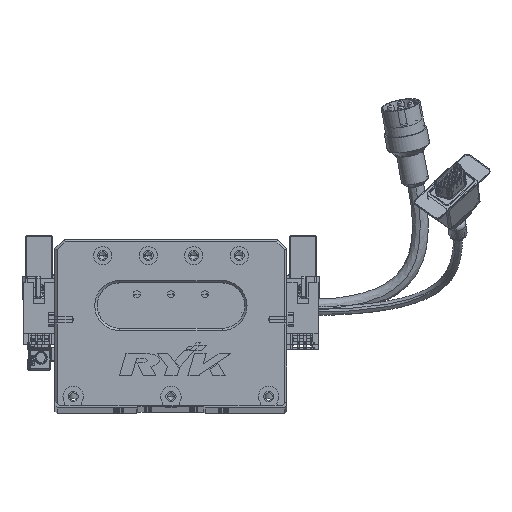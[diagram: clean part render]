
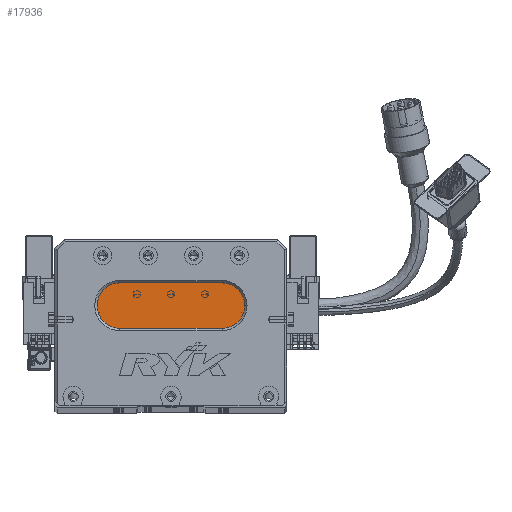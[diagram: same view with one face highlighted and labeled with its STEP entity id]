
A CAD part, top view. The second image highlights one B-rep face of the part: STEP entity #17936.
In plain terms, the highlighted planar face has unit normal (0, 0, 1) as drawn and (0, 0, -1) by its records, which use the part's own axes.
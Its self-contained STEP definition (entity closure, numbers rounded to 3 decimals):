
#435 = DIRECTION ( 'NONE',  ( -1., 0., 0. ) ) ;
#770 = DIRECTION ( 'NONE',  ( 1., 0., 0. ) ) ;
#1495 = ORIENTED_EDGE ( 'NONE', *, *, #12369, .T. ) ;
#1555 = VECTOR ( 'NONE', #770, 1000. ) ;
#2066 = PLANE ( 'NONE',  #9559 ) ;
#3322 = CARTESIAN_POINT ( 'NONE',  ( 28.5, 34., 13. ) ) ;
#6414 = CARTESIAN_POINT ( 'NONE',  ( 73.5, 44., 13. ) ) ;
#8319 = CIRCLE ( 'NONE', #62216, 10. ) ;
#9559 = AXIS2_PLACEMENT_3D ( 'NONE', #30125, #18705, #70170 ) ;
#12256 = VECTOR ( 'NONE', #44688, 1000. ) ;
#12369 = EDGE_CURVE ( 'NONE', #48958, #53826, #13075, .T. ) ;
#12390 = AXIS2_PLACEMENT_3D ( 'NONE', #43992, #38246, #14902 ) ;
#13075 = LINE ( 'NONE', #34771, #1555 ) ;
#14902 = DIRECTION ( 'NONE',  ( -1., 0., 0. ) ) ;
#15443 = EDGE_CURVE ( 'NONE', #37744, #67535, #66542, .T. ) ;
#17936 = ADVANCED_FACE ( 'NONE', ( #54615 ), #2066, .T. ) ;
#18705 = DIRECTION ( 'NONE',  ( 0., 0., -1. ) ) ;
#23263 = DIRECTION ( 'NONE',  ( 0., 0., -1. ) ) ;
#25768 = EDGE_LOOP ( 'NONE', ( #35173, #33139, #44646, #61096, #1495 ) ) ;
#25930 = CARTESIAN_POINT ( 'NONE',  ( 28.5, 44., 13. ) ) ;
#27046 = EDGE_CURVE ( 'NONE', #37341, #48958, #62189, .T. ) ;
#30125 = CARTESIAN_POINT ( 'NONE',  ( 73.5, 44., 13. ) ) ;
#33139 = ORIENTED_EDGE ( 'NONE', *, *, #15443, .T. ) ;
#33822 = CARTESIAN_POINT ( 'NONE',  ( 28.5, 54., 13. ) ) ;
#34771 = CARTESIAN_POINT ( 'NONE',  ( 73.5, 54., 13. ) ) ;
#35173 = ORIENTED_EDGE ( 'NONE', *, *, #67037, .T. ) ;
#35321 = CARTESIAN_POINT ( 'NONE',  ( 73.5, 34., 13. ) ) ;
#37341 = VERTEX_POINT ( 'NONE', #47336 ) ;
#37744 = VERTEX_POINT ( 'NONE', #35321 ) ;
#38246 = DIRECTION ( 'NONE',  ( 0., 0., -1. ) ) ;
#38702 = CARTESIAN_POINT ( 'NONE',  ( 73.5, 34., 13. ) ) ;
#40108 = DIRECTION ( 'NONE',  ( 0., 0., -1. ) ) ;
#40570 = EDGE_CURVE ( 'NONE', #67535, #37341, #56284, .T. ) ;
#43992 = CARTESIAN_POINT ( 'NONE',  ( 28.5, 44., 13. ) ) ;
#44646 = ORIENTED_EDGE ( 'NONE', *, *, #40570, .T. ) ;
#44688 = DIRECTION ( 'NONE',  ( -1., 0., 0. ) ) ;
#44789 = AXIS2_PLACEMENT_3D ( 'NONE', #25930, #40108, #66941 ) ;
#47336 = CARTESIAN_POINT ( 'NONE',  ( 18.5, 44., 13. ) ) ;
#48958 = VERTEX_POINT ( 'NONE', #33822 ) ;
#53826 = VERTEX_POINT ( 'NONE', #61533 ) ;
#54615 = FACE_OUTER_BOUND ( 'NONE', #25768, .T. ) ;
#56284 = CIRCLE ( 'NONE', #44789, 10. ) ;
#61096 = ORIENTED_EDGE ( 'NONE', *, *, #27046, .T. ) ;
#61533 = CARTESIAN_POINT ( 'NONE',  ( 73.5, 54., 13. ) ) ;
#62189 = CIRCLE ( 'NONE', #12390, 10. ) ;
#62216 = AXIS2_PLACEMENT_3D ( 'NONE', #6414, #23263, #435 ) ;
#66542 = LINE ( 'NONE', #38702, #12256 ) ;
#66941 = DIRECTION ( 'NONE',  ( -1., 0., 0. ) ) ;
#67037 = EDGE_CURVE ( 'NONE', #53826, #37744, #8319, .T. ) ;
#67535 = VERTEX_POINT ( 'NONE', #3322 ) ;
#70170 = DIRECTION ( 'NONE',  ( -1., 0., 0. ) ) ;
